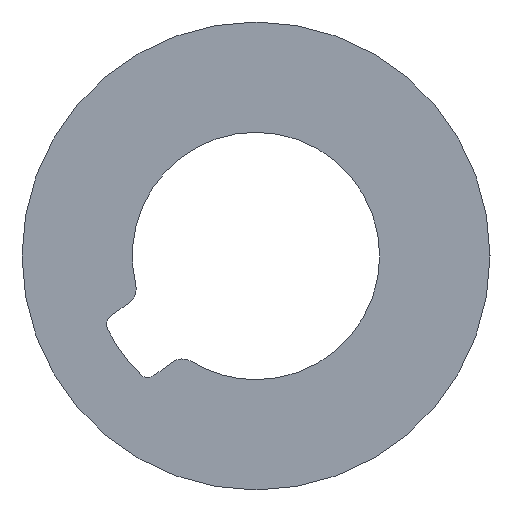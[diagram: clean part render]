
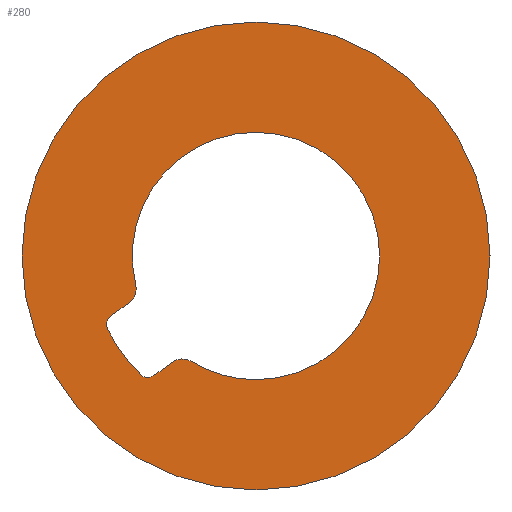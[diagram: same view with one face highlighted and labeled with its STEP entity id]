
A CAD part, left-side view. The second image highlights one B-rep face of the part: STEP entity #280.
In plain terms, the highlighted planar face has unit normal (-1, 0, 0).
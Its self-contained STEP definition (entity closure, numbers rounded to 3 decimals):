
#26 = AXIS2_PLACEMENT_3D ( 'NONE', #412, #411, #409 ) ;
#27 = AXIS2_PLACEMENT_3D ( 'NONE', #420, #419, #417 ) ;
#34 = AXIS2_PLACEMENT_3D ( 'NONE', #454, #453, #451 ) ;
#36 = AXIS2_PLACEMENT_3D ( 'NONE', #468, #467, #465 ) ;
#38 = AXIS2_PLACEMENT_3D ( 'NONE', #479, #478, #476 ) ;
#40 = AXIS2_PLACEMENT_3D ( 'NONE', #493, #492, #490 ) ;
#42 = AXIS2_PLACEMENT_3D ( 'NONE', #523, #520, #519 ) ;
#43 = AXIS2_PLACEMENT_3D ( 'NONE', #354, #525, #524 ) ;
#44 = AXIS2_PLACEMENT_3D ( 'NONE', #370, #364, #359 ) ;
#45 = AXIS2_PLACEMENT_3D ( 'NONE', #389, #385, #381 ) ;
#47 = AXIS2_PLACEMENT_3D ( 'NONE', #423, #418, #414 ) ;
#48 = AXIS2_PLACEMENT_3D ( 'NONE', #433, #429, #426 ) ;
#49 = EDGE_CURVE ( 'NONE', #466, #511, #232, .T. ) ;
#50 = EDGE_CURVE ( 'NONE', #517, #491, #230, .T. ) ;
#53 = EDGE_CURVE ( 'NONE', #522, #484, #223, .T. ) ;
#54 = EDGE_CURVE ( 'NONE', #484, #487, #224, .T. ) ;
#55 = EDGE_CURVE ( 'NONE', #487, #517, #219, .T. ) ;
#56 = EDGE_CURVE ( 'NONE', #491, #505, #218, .T. ) ;
#57 = EDGE_CURVE ( 'NONE', #505, #452, #215, .T. ) ;
#66 = EDGE_CURVE ( 'NONE', #470, #455, #197, .T. ) ;
#70 = EDGE_CURVE ( 'NONE', #444, #521, #189, .T. ) ;
#73 = EDGE_CURVE ( 'NONE', #511, #444, #182, .T. ) ;
#77 = EDGE_CURVE ( 'NONE', #521, #522, #176, .T. ) ;
#86 = EDGE_CURVE ( 'NONE', #455, #470, #156, .T. ) ;
#87 = EDGE_CURVE ( 'NONE', #452, #466, #158, .T. ) ;
#93 = ORIENTED_EDGE ( 'NONE', *, *, #87, .T. ) ;
#94 = ORIENTED_EDGE ( 'NONE', *, *, #66, .F. ) ;
#95 = ORIENTED_EDGE ( 'NONE', *, *, #86, .F. ) ;
#96 = ORIENTED_EDGE ( 'NONE', *, *, #49, .T. ) ;
#97 = ORIENTED_EDGE ( 'NONE', *, *, #70, .T. ) ;
#98 = ORIENTED_EDGE ( 'NONE', *, *, #73, .T. ) ;
#104 = ORIENTED_EDGE ( 'NONE', *, *, #77, .T. ) ;
#105 = ORIENTED_EDGE ( 'NONE', *, *, #54, .T. ) ;
#106 = ORIENTED_EDGE ( 'NONE', *, *, #53, .T. ) ;
#108 = ORIENTED_EDGE ( 'NONE', *, *, #56, .T. ) ;
#109 = ORIENTED_EDGE ( 'NONE', *, *, #50, .T. ) ;
#110 = ORIENTED_EDGE ( 'NONE', *, *, #55, .T. ) ;
#111 = ORIENTED_EDGE ( 'NONE', *, *, #57, .T. ) ;
#153 = FACE_BOUND ( 'NONE', #235, .T. ) ;
#154 = FACE_OUTER_BOUND ( 'NONE', #236, .T. ) ;
#155 = VECTOR ( 'NONE', #415, 1000. ) ;
#156 = CIRCLE ( 'NONE', #27, 7. ) ;
#158 = LINE ( 'NONE', #416, #155 ) ;
#176 = CIRCLE ( 'NONE', #34, 3.7 ) ;
#182 = CIRCLE ( 'NONE', #36, 3.7 ) ;
#189 = CIRCLE ( 'NONE', #38, 3.7 ) ;
#197 = CIRCLE ( 'NONE', #40, 7. ) ;
#215 = CIRCLE ( 'NONE', #42, 0.3 ) ;
#218 = CIRCLE ( 'NONE', #43, 4.95 ) ;
#219 = CIRCLE ( 'NONE', #44, 0.3 ) ;
#222 = VECTOR ( 'NONE', #373, 1000. ) ;
#223 = CIRCLE ( 'NONE', #45, 0.5 ) ;
#224 = LINE ( 'NONE', #378, #222 ) ;
#230 = CIRCLE ( 'NONE', #47, 0.3 ) ;
#232 = CIRCLE ( 'NONE', #48, 0.5 ) ;
#235 = EDGE_LOOP ( 'NONE', ( #93, #96, #98, #97, #104, #106, #105, #110, #109, #108, #111 ) ) ;
#236 = EDGE_LOOP ( 'NONE', ( #95, #94 ) ) ;
#280 = ADVANCED_FACE ( 'NONE', ( #154, #153 ), #413, .F. ) ;
#317 = CARTESIAN_POINT ( 'NONE',  ( -239.5, 1.939, -3.151 ) ) ;
#318 = CARTESIAN_POINT ( 'NONE',  ( -239.5, 0., -3.7 ) ) ;
#319 = CARTESIAN_POINT ( 'NONE',  ( -239.5, 3.236, -3.64 ) ) ;
#321 = CARTESIAN_POINT ( 'NONE',  ( -239.5, 3.596, -0.87 ) ) ;
#323 = CARTESIAN_POINT ( 'NONE',  ( -239.5, 4.445, -2.177 ) ) ;
#327 = CARTESIAN_POINT ( 'NONE',  ( -239.5, 3.444, -3.555 ) ) ;
#328 = CARTESIAN_POINT ( 'NONE',  ( -239.5, 3.059, -3.582 ) ) ;
#329 = CARTESIAN_POINT ( 'NONE',  ( -239.5, 2.495, -3.172 ) ) ;
#333 = CARTESIAN_POINT ( 'NONE',  ( -239.5, 0., -7. ) ) ;
#334 = CARTESIAN_POINT ( 'NONE',  ( -239.5, 3.788, -1.393 ) ) ;
#337 = CARTESIAN_POINT ( 'NONE',  ( -239.5, 0., 7. ) ) ;
#338 = CARTESIAN_POINT ( 'NONE',  ( -239.5, 4.352, -1.803 ) ) ;
#340 = CARTESIAN_POINT ( 'NONE',  ( -239.5, 0., 3.7 ) ) ;
#354 = CARTESIAN_POINT ( 'NONE',  ( -239.5, 0., 0. ) ) ;
#359 = DIRECTION ( 'NONE',  ( 0., 0., 1. ) ) ;
#364 = DIRECTION ( 'NONE',  ( 1., 0., 0. ) ) ;
#370 = CARTESIAN_POINT ( 'NONE',  ( -239.5, 3.236, -3.34 ) ) ;
#373 = DIRECTION ( 'NONE',  ( 0., 0.809, -0.588 ) ) ;
#378 = CARTESIAN_POINT ( 'NONE',  ( -239.5, 3.059, -3.582 ) ) ;
#381 = DIRECTION ( 'NONE',  ( 0., 0., -1. ) ) ;
#385 = DIRECTION ( 'NONE',  ( -1., 0., 0. ) ) ;
#389 = CARTESIAN_POINT ( 'NONE',  ( -239.5, 2.201, -3.577 ) ) ;
#409 = DIRECTION ( 'NONE',  ( 0., 0., -1. ) ) ;
#411 = DIRECTION ( 'NONE',  ( 1., 0., 0. ) ) ;
#412 = CARTESIAN_POINT ( 'NONE',  ( -239.5, 0., 0. ) ) ;
#413 = PLANE ( 'NONE',  #26 ) ;
#414 = DIRECTION ( 'NONE',  ( 0., 0., 1. ) ) ;
#415 = DIRECTION ( 'NONE',  ( 0., -0.809, 0.588 ) ) ;
#416 = CARTESIAN_POINT ( 'NONE',  ( -239.5, 3.788, -1.393 ) ) ;
#417 = DIRECTION ( 'NONE',  ( 0., 0., -1. ) ) ;
#418 = DIRECTION ( 'NONE',  ( 1., 0., 0. ) ) ;
#419 = DIRECTION ( 'NONE',  ( 1., 0., 0. ) ) ;
#420 = CARTESIAN_POINT ( 'NONE',  ( -239.5, 0., 0. ) ) ;
#423 = CARTESIAN_POINT ( 'NONE',  ( -239.5, 3.236, -3.34 ) ) ;
#426 = DIRECTION ( 'NONE',  ( 0., 0., 1. ) ) ;
#429 = DIRECTION ( 'NONE',  ( -1., 0., 0. ) ) ;
#433 = CARTESIAN_POINT ( 'NONE',  ( -239.5, 4.082, -0.988 ) ) ;
#444 = VERTEX_POINT ( 'NONE', #340 ) ;
#451 = DIRECTION ( 'NONE',  ( 0., 0., -1. ) ) ;
#452 = VERTEX_POINT ( 'NONE', #338 ) ;
#453 = DIRECTION ( 'NONE',  ( 1., 0., 0. ) ) ;
#454 = CARTESIAN_POINT ( 'NONE',  ( -239.5, 0., 0. ) ) ;
#455 = VERTEX_POINT ( 'NONE', #337 ) ;
#465 = DIRECTION ( 'NONE',  ( 0., 0., -1. ) ) ;
#466 = VERTEX_POINT ( 'NONE', #334 ) ;
#467 = DIRECTION ( 'NONE',  ( 1., 0., 0. ) ) ;
#468 = CARTESIAN_POINT ( 'NONE',  ( -239.5, 0., 0. ) ) ;
#470 = VERTEX_POINT ( 'NONE', #333 ) ;
#476 = DIRECTION ( 'NONE',  ( 0., 0., -1. ) ) ;
#478 = DIRECTION ( 'NONE',  ( 1., 0., 0. ) ) ;
#479 = CARTESIAN_POINT ( 'NONE',  ( -239.5, 0., 0. ) ) ;
#484 = VERTEX_POINT ( 'NONE', #329 ) ;
#487 = VERTEX_POINT ( 'NONE', #328 ) ;
#490 = DIRECTION ( 'NONE',  ( 0., 0., -1. ) ) ;
#491 = VERTEX_POINT ( 'NONE', #327 ) ;
#492 = DIRECTION ( 'NONE',  ( 1., 0., 0. ) ) ;
#493 = CARTESIAN_POINT ( 'NONE',  ( -239.5, 0., 0. ) ) ;
#505 = VERTEX_POINT ( 'NONE', #323 ) ;
#511 = VERTEX_POINT ( 'NONE', #321 ) ;
#517 = VERTEX_POINT ( 'NONE', #319 ) ;
#519 = DIRECTION ( 'NONE',  ( 0., 0., -1. ) ) ;
#520 = DIRECTION ( 'NONE',  ( 1., 0., 0. ) ) ;
#521 = VERTEX_POINT ( 'NONE', #318 ) ;
#522 = VERTEX_POINT ( 'NONE', #317 ) ;
#523 = CARTESIAN_POINT ( 'NONE',  ( -239.5, 4.176, -2.045 ) ) ;
#524 = DIRECTION ( 'NONE',  ( 0., 0., 1. ) ) ;
#525 = DIRECTION ( 'NONE',  ( 1., 0., 0. ) ) ;
